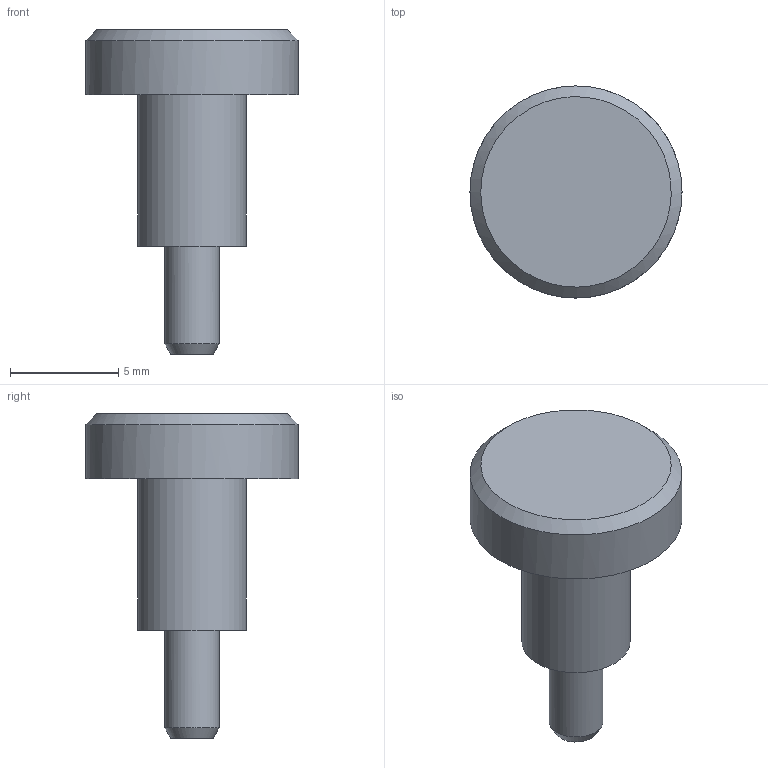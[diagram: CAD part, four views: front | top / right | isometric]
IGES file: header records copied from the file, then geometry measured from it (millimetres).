
Global section: file name: 440.30; native system: Autodesk Inventor 2021; preprocessor: unknown; author: AP; date: 20220111.120637; units: millimetre
Bounding box: 9.8 x 9.8 x 15 mm (x, y, z)
Volume: 380.2 mm3; surface area: 485.8 mm2
Topology: 2 solids, 2 shells, 20 faces, 49 edges, 34 vertices
Faces by surface type: bspline 20
